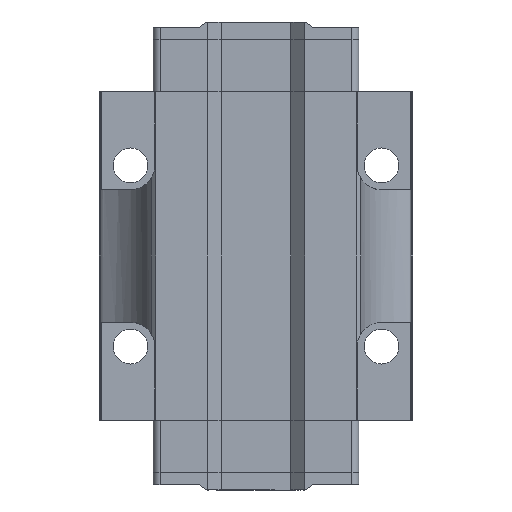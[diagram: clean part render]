
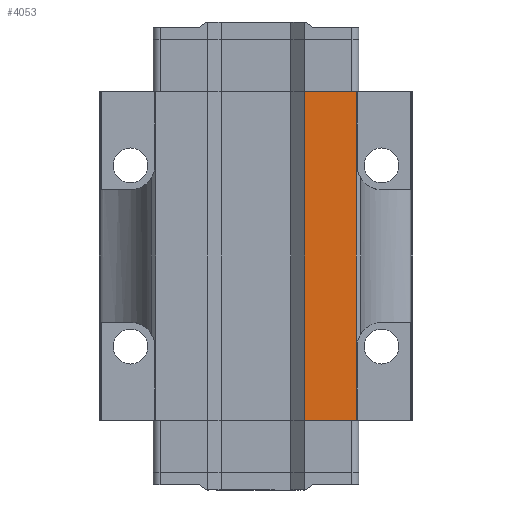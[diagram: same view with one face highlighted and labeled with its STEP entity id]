
A CAD part, front view. The second image highlights one B-rep face of the part: STEP entity #4053.
In plain terms, the highlighted planar face has unit normal (0, -1, 0).
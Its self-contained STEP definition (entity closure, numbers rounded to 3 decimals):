
#194 = PLANE('',#195);
#195 = AXIS2_PLACEMENT_3D('',#196,#197,#198);
#196 = CARTESIAN_POINT('',(0.,1.82,94.3));
#197 = DIRECTION('',(0.,0.,1.));
#198 = DIRECTION('',(1.,0.,-0.));
#860 = PLANE('',#861);
#861 = AXIS2_PLACEMENT_3D('',#862,#863,#864);
#862 = CARTESIAN_POINT('',(28.8,-17.,0.));
#863 = DIRECTION('',(0.707,-0.707,0.));
#864 = DIRECTION('',(0.707,0.707,0.));
#1024 = PLANE('',#1025);
#1025 = AXIS2_PLACEMENT_3D('',#1026,#1027,#1028);
#1026 = CARTESIAN_POINT('',(0.,1.82,0.));
#1027 = DIRECTION('',(0.,0.,1.));
#1028 = DIRECTION('',(1.,0.,-0.));
#2466 = VERTEX_POINT('',#2467);
#2467 = CARTESIAN_POINT('',(28.8,-17.,94.3));
#2488 = EDGE_CURVE('',#2489,#2466,#2491,.T.);
#2489 = VERTEX_POINT('',#2490);
#2490 = CARTESIAN_POINT('',(28.8,-17.,0.));
#2491 = SURFACE_CURVE('',#2492,(#2496,#2503),.PCURVE_S1.);
#2492 = LINE('',#2493,#2494);
#2493 = CARTESIAN_POINT('',(28.8,-17.,0.));
#2494 = VECTOR('',#2495,1.);
#2495 = DIRECTION('',(0.,0.,1.));
#2496 = PCURVE('',#860,#2497);
#2497 = DEFINITIONAL_REPRESENTATION('',(#2498),#2502);
#2498 = LINE('',#2499,#2500);
#2499 = CARTESIAN_POINT('',(0.,0.));
#2500 = VECTOR('',#2501,1.);
#2501 = DIRECTION('',(0.,1.));
#2502 = ( GEOMETRIC_REPRESENTATION_CONTEXT(2) 
PARAMETRIC_REPRESENTATION_CONTEXT() REPRESENTATION_CONTEXT('2D SPACE',''
  ) );
#2503 = PCURVE('',#2504,#2509);
#2504 = PLANE('',#2505);
#2505 = AXIS2_PLACEMENT_3D('',#2506,#2507,#2508);
#2506 = CARTESIAN_POINT('',(14.,-17.,0.));
#2507 = DIRECTION('',(0.,-1.,0.));
#2508 = DIRECTION('',(1.,0.,0.));
#2509 = DEFINITIONAL_REPRESENTATION('',(#2510),#2514);
#2510 = LINE('',#2511,#2512);
#2511 = CARTESIAN_POINT('',(14.8,0.));
#2512 = VECTOR('',#2513,1.);
#2513 = DIRECTION('',(0.,1.));
#2514 = ( GEOMETRIC_REPRESENTATION_CONTEXT(2) 
PARAMETRIC_REPRESENTATION_CONTEXT() REPRESENTATION_CONTEXT('2D SPACE',''
  ) );
#2923 = VERTEX_POINT('',#2924);
#2924 = CARTESIAN_POINT('',(14.,-17.,94.3));
#2938 = PLANE('',#2939);
#2939 = AXIS2_PLACEMENT_3D('',#2940,#2941,#2942);
#2940 = CARTESIAN_POINT('',(10.,-13.,0.));
#2941 = DIRECTION('',(-0.707,-0.707,0.));
#2942 = DIRECTION('',(0.707,-0.707,0.));
#2950 = EDGE_CURVE('',#2923,#2466,#2951,.T.);
#2951 = SURFACE_CURVE('',#2952,(#2956,#2963),.PCURVE_S1.);
#2952 = B_SPLINE_CURVE_WITH_KNOTS('',2,(#2953,#2954,#2955),
  .UNSPECIFIED.,.F.,.F.,(3,3),(-18.873,-17.873),
  .PIECEWISE_BEZIER_KNOTS.);
#2953 = CARTESIAN_POINT('',(14.,-17.,94.3));
#2954 = CARTESIAN_POINT('',(21.4,-17.,94.3));
#2955 = CARTESIAN_POINT('',(28.8,-17.,94.3));
#2956 = PCURVE('',#194,#2957);
#2957 = DEFINITIONAL_REPRESENTATION('',(#2958),#2962);
#2958 = B_SPLINE_CURVE_WITH_KNOTS('',2,(#2959,#2960,#2961),
  .UNSPECIFIED.,.F.,.F.,(3,3),(-18.873,-17.873),
  .PIECEWISE_BEZIER_KNOTS.);
#2959 = CARTESIAN_POINT('',(14.,-18.82));
#2960 = CARTESIAN_POINT('',(21.4,-18.82));
#2961 = CARTESIAN_POINT('',(28.8,-18.82));
#2962 = ( GEOMETRIC_REPRESENTATION_CONTEXT(2) 
PARAMETRIC_REPRESENTATION_CONTEXT() REPRESENTATION_CONTEXT('2D SPACE',''
  ) );
#2963 = PCURVE('',#2504,#2964);
#2964 = DEFINITIONAL_REPRESENTATION('',(#2965),#2969);
#2965 = B_SPLINE_CURVE_WITH_KNOTS('',2,(#2966,#2967,#2968),
  .UNSPECIFIED.,.F.,.F.,(3,3),(-18.873,-17.873),
  .PIECEWISE_BEZIER_KNOTS.);
#2966 = CARTESIAN_POINT('',(0.,94.3));
#2967 = CARTESIAN_POINT('',(7.4,94.3));
#2968 = CARTESIAN_POINT('',(14.8,94.3));
#2969 = ( GEOMETRIC_REPRESENTATION_CONTEXT(2) 
PARAMETRIC_REPRESENTATION_CONTEXT() REPRESENTATION_CONTEXT('2D SPACE',''
  ) );
#4053 = ADVANCED_FACE('',(#4054),#2504,.T.);
#4054 = FACE_BOUND('',#4055,.T.);
#4055 = EDGE_LOOP('',(#4056,#4079,#4080,#4081));
#4056 = ORIENTED_EDGE('',*,*,#4057,.F.);
#4057 = EDGE_CURVE('',#2489,#4058,#4060,.T.);
#4058 = VERTEX_POINT('',#4059);
#4059 = CARTESIAN_POINT('',(14.,-17.,0.));
#4060 = SURFACE_CURVE('',#4061,(#4065,#4072),.PCURVE_S1.);
#4061 = B_SPLINE_CURVE_WITH_KNOTS('',2,(#4062,#4063,#4064),
  .UNSPECIFIED.,.F.,.F.,(3,3),(17.873,18.873),
  .PIECEWISE_BEZIER_KNOTS.);
#4062 = CARTESIAN_POINT('',(28.8,-17.,0.));
#4063 = CARTESIAN_POINT('',(21.4,-17.,0.));
#4064 = CARTESIAN_POINT('',(14.,-17.,0.));
#4065 = PCURVE('',#2504,#4066);
#4066 = DEFINITIONAL_REPRESENTATION('',(#4067),#4071);
#4067 = B_SPLINE_CURVE_WITH_KNOTS('',2,(#4068,#4069,#4070),
  .UNSPECIFIED.,.F.,.F.,(3,3),(17.873,18.873),
  .PIECEWISE_BEZIER_KNOTS.);
#4068 = CARTESIAN_POINT('',(14.8,0.));
#4069 = CARTESIAN_POINT('',(7.4,0.));
#4070 = CARTESIAN_POINT('',(0.,0.));
#4071 = ( GEOMETRIC_REPRESENTATION_CONTEXT(2) 
PARAMETRIC_REPRESENTATION_CONTEXT() REPRESENTATION_CONTEXT('2D SPACE',''
  ) );
#4072 = PCURVE('',#1024,#4073);
#4073 = DEFINITIONAL_REPRESENTATION('',(#4074),#4078);
#4074 = B_SPLINE_CURVE_WITH_KNOTS('',2,(#4075,#4076,#4077),
  .UNSPECIFIED.,.F.,.F.,(3,3),(17.873,18.873),
  .PIECEWISE_BEZIER_KNOTS.);
#4075 = CARTESIAN_POINT('',(28.8,-18.82));
#4076 = CARTESIAN_POINT('',(21.4,-18.82));
#4077 = CARTESIAN_POINT('',(14.,-18.82));
#4078 = ( GEOMETRIC_REPRESENTATION_CONTEXT(2) 
PARAMETRIC_REPRESENTATION_CONTEXT() REPRESENTATION_CONTEXT('2D SPACE',''
  ) );
#4079 = ORIENTED_EDGE('',*,*,#2488,.T.);
#4080 = ORIENTED_EDGE('',*,*,#2950,.F.);
#4081 = ORIENTED_EDGE('',*,*,#4082,.F.);
#4082 = EDGE_CURVE('',#4058,#2923,#4083,.T.);
#4083 = SURFACE_CURVE('',#4084,(#4088,#4095),.PCURVE_S1.);
#4084 = LINE('',#4085,#4086);
#4085 = CARTESIAN_POINT('',(14.,-17.,0.));
#4086 = VECTOR('',#4087,1.);
#4087 = DIRECTION('',(0.,0.,1.));
#4088 = PCURVE('',#2504,#4089);
#4089 = DEFINITIONAL_REPRESENTATION('',(#4090),#4094);
#4090 = LINE('',#4091,#4092);
#4091 = CARTESIAN_POINT('',(0.,0.));
#4092 = VECTOR('',#4093,1.);
#4093 = DIRECTION('',(0.,1.));
#4094 = ( GEOMETRIC_REPRESENTATION_CONTEXT(2) 
PARAMETRIC_REPRESENTATION_CONTEXT() REPRESENTATION_CONTEXT('2D SPACE',''
  ) );
#4095 = PCURVE('',#2938,#4096);
#4096 = DEFINITIONAL_REPRESENTATION('',(#4097),#4101);
#4097 = LINE('',#4098,#4099);
#4098 = CARTESIAN_POINT('',(5.657,0.));
#4099 = VECTOR('',#4100,1.);
#4100 = DIRECTION('',(0.,1.));
#4101 = ( GEOMETRIC_REPRESENTATION_CONTEXT(2) 
PARAMETRIC_REPRESENTATION_CONTEXT() REPRESENTATION_CONTEXT('2D SPACE',''
  ) );
